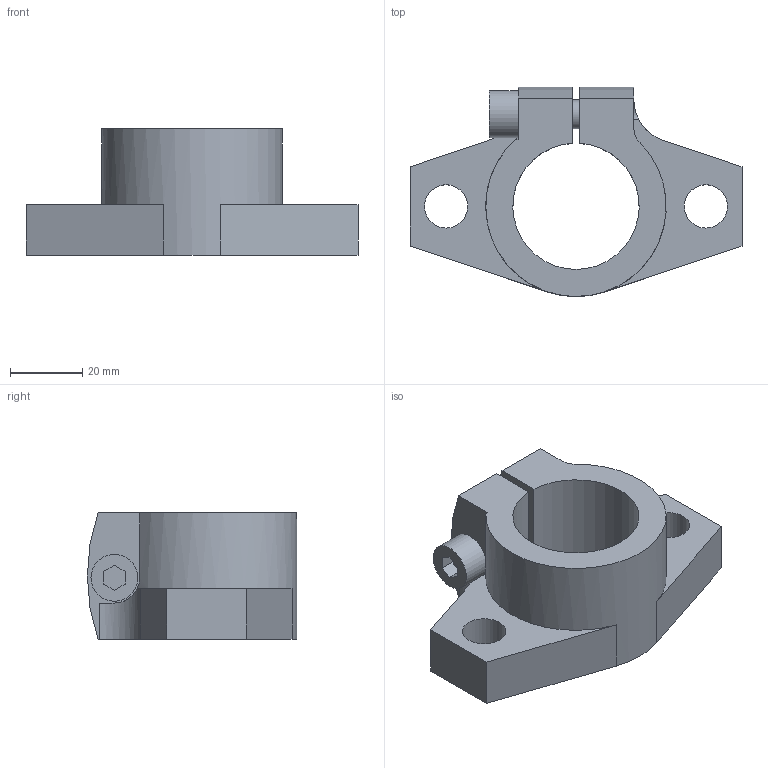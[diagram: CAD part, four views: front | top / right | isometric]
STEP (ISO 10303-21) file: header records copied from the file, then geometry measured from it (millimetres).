
FILE_DESCRIPTION(('STEP AP203'),'1');
FILE_NAME('//192.168.1.1/share/s-4 技術開発/s-4-14_個人別フォルダ/橋詰/09_CAD_DATA/3D/HP用/3Ｄモデル/SNF/SNF-35A.step','2021-09-16T23:49:37',(' '),(' '),'Spatial InterOp 3D',' ',' ');
FILE_SCHEMA(('CONFIG_CONTROL_DESIGN'));
Length unit declared in the file: millimetre
Products named in the file (3): 1; 2; 3
Bounding box: 92 x 58 x 35 mm (x, y, z)
Volume: 62469.1 mm3; surface area: 19973.6 mm2
Topology: 2 solids, 2 shells, 43 faces, 115 edges, 78 vertices
Faces by surface type: plane 27, cylinder 15, cone 1
Full cylindrical faces by diameter (mm): 6.75 x1, 8 x2, 8.5 x1, 12 x2, 13 x1
Entity records: 1485 total; most frequent: CARTESIAN_POINT 285, DIRECTION 224, ORIENTED_EDGE 206, EDGE_CURVE 103, AXIS2_PLACEMENT_3D 78, VERTEX_POINT 73, LINE 68, VECTOR 68
